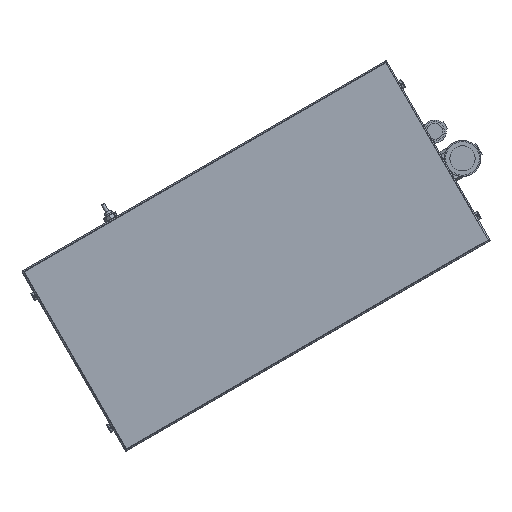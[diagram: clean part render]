
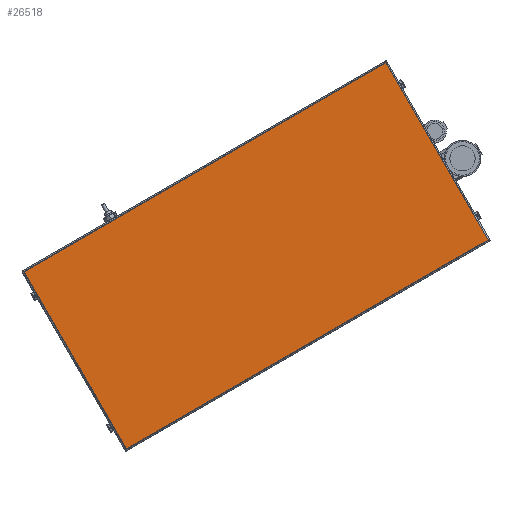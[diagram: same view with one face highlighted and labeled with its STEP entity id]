
A CAD part, top view. The second image highlights one B-rep face of the part: STEP entity #26518.
In plain terms, the highlighted planar face has unit normal (0, 0, 1).
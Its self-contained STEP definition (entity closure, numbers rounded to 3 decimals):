
#1754 = CARTESIAN_POINT ( 'NONE',  ( 263.485, 292.131, 966.5 ) ) ;
#3080 = CARTESIAN_POINT ( 'NONE',  ( -44.381, -165.631, 966.5 ) ) ;
#4079 = CARTESIAN_POINT ( 'NONE',  ( 263.668, 292.814, 966.5 ) ) ;
#4140 = AXIS2_PLACEMENT_3D ( 'NONE', #4079, #39999, #18532 ) ;
#4220 = EDGE_CURVE ( 'NONE', #9491, #31756, #42829, .T. ) ;
#7109 = DIRECTION ( 'NONE',  ( -0.5, 0.866, 0. ) ) ;
#7918 = ORIENTED_EDGE ( 'NONE', *, *, #17842, .T. ) ;
#9007 = FACE_OUTER_BOUND ( 'NONE', #20308, .T. ) ;
#9491 = VERTEX_POINT ( 'NONE', #3080 ) ;
#10984 = ORIENTED_EDGE ( 'NONE', *, *, #20682, .T. ) ;
#14158 = VECTOR ( 'NONE', #17257, 1000. ) ;
#15066 = DIRECTION ( 'NONE',  ( -0.866, -0.5, 0. ) ) ;
#15464 = ORIENTED_EDGE ( 'NONE', *, *, #4220, .T. ) ;
#17257 = DIRECTION ( 'NONE',  ( 0.866, 0.5, 0. ) ) ;
#17842 = EDGE_CURVE ( 'NONE', #31756, #27724, #25658, .T. ) ;
#17961 = CARTESIAN_POINT ( 'NONE',  ( -43.381, -167.363, 966.5 ) ) ;
#18532 = DIRECTION ( 'NONE',  ( -0.5, 0.866, 0. ) ) ;
#20308 = EDGE_LOOP ( 'NONE', ( #33400, #15464, #7918, #10984 ) ) ;
#20682 = EDGE_CURVE ( 'NONE', #27724, #43570, #45822, .T. ) ;
#22166 = EDGE_CURVE ( 'NONE', #43570, #9491, #42266, .T. ) ;
#24328 = VECTOR ( 'NONE', #39427, 1000. ) ;
#25658 = LINE ( 'NONE', #46550, #34068 ) ;
#25782 = CARTESIAN_POINT ( 'NONE',  ( -167.363, 43.381, 966.5 ) ) ;
#26518 = ADVANCED_FACE ( 'NONE', ( #9007 ), #36397, .T. ) ;
#27724 = VERTEX_POINT ( 'NONE', #1754 ) ;
#31756 = VERTEX_POINT ( 'NONE', #40654 ) ;
#31919 = CARTESIAN_POINT ( 'NONE',  ( -165.631, 44.381, 966.5 ) ) ;
#33400 = ORIENTED_EDGE ( 'NONE', *, *, #22166, .T. ) ;
#34068 = VECTOR ( 'NONE', #7109, 1000. ) ;
#36211 = VECTOR ( 'NONE', #15066, 1000. ) ;
#36397 = PLANE ( 'NONE',  #4140 ) ;
#38757 = CARTESIAN_POINT ( 'NONE',  ( 386.467, 83.119, 966.5 ) ) ;
#39427 = DIRECTION ( 'NONE',  ( 0.5, -0.866, 0. ) ) ;
#39999 = DIRECTION ( 'NONE',  ( 0., 0., 1. ) ) ;
#40654 = CARTESIAN_POINT ( 'NONE',  ( 384.735, 82.119, 966.5 ) ) ;
#42266 = LINE ( 'NONE', #17961, #24328 ) ;
#42829 = LINE ( 'NONE', #38757, #14158 ) ;
#43570 = VERTEX_POINT ( 'NONE', #31919 ) ;
#45822 = LINE ( 'NONE', #25782, #36211 ) ;
#46550 = CARTESIAN_POINT ( 'NONE',  ( 262.485, 293.863, 966.5 ) ) ;
